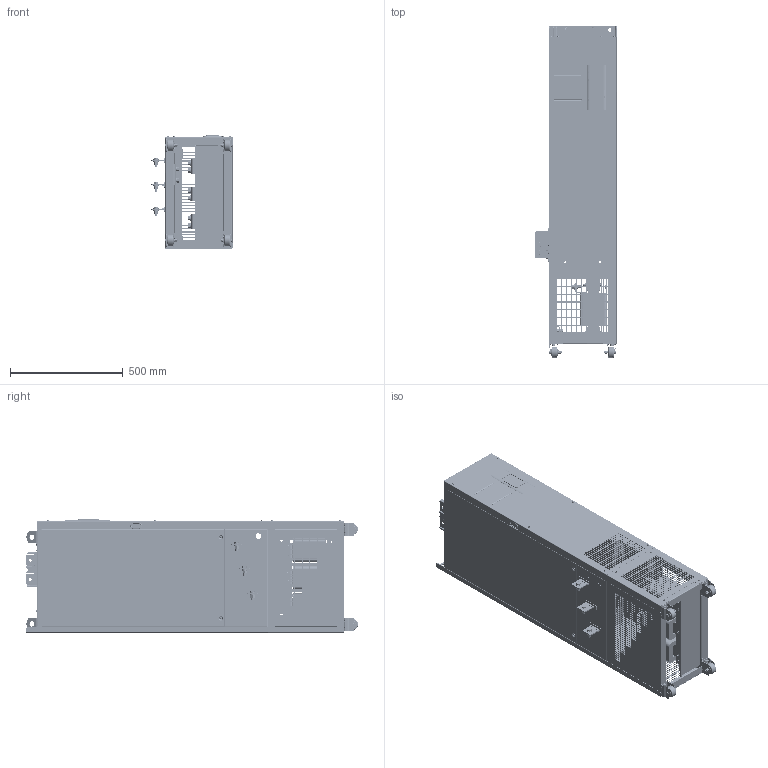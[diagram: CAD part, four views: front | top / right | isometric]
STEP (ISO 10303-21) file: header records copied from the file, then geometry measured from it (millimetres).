
FILE_DESCRIPTION((''),'2;1');
FILE_NAME('000-MVT224ZG-L-520_ASM','2021-12-14T',('h2718'),(''),'CREO PARAMETRIC BY PTC INC, 2015290','CREO PARAMETRIC BY PTC INC, 2015290','');
FILE_SCHEMA(('AP203_CONFIGURATION_CONTROLLED_3D_DESIGN_OF_MECHANICAL_PARTS_AND_ASSEMBLIES_MIM_LF { 1 0 10303 403 2 1 2 }'));
Products named in the file (106): 20310552-LJ_AF1_4_1; 20310555-LJ_AF1_3; 20310552-LJ_AF1_4_2; 20310556-LJ_AF1_6; 20310549-LJ_AF1_6_1; 20310549-LJ_AF1_6_2; 20310563-LJ_AF0_4; 20110091-ZP_ASM_7_ASM; 20310565-LJ_2; 20310564-LJ_2; 20130143-ZP_ASM_2_ASM; 20460154-LJ_3; 20460155-LJ_3; HC-TPR-5-10-SL_2; SIT2013AGH5; 20460157-LJ_2; 20190039-ZP_ASM_6_ASM; 20350027-LJ_AF1_3; 20350028-LJ_AF1_3; 20350023-ZP_ASM_5_ASM; LABLE_MD500_ZHENG_3; LABLE_MD500_FU_3; LABLE_MD500_R_1; LABLE_MD500_S_3; LABLE_MD500_T_1; 19040156-ZP_ASM_5_ASM; 20310713-LJ_4; 20480130-LJ_6; 20310714-LJ_5; 20480129-LJ_4; 20110141-ZP_ASM_5_ASM; 20460199-LJ_4; 20460200-LJ_4; 20460197-LJ_4; 20180085-LJ_4; 20310715-LJ_2; HC-NZ-M12-ZC_2; 20460198-LJ_4; 20110135-ZP_ASM_9_ASM; 20350173-LJ_4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
Assembly tree (204 placements, depth 4):
  000-MVT224ZG-L-520_ASM
    20190039-ZP_ASM_6_ASM
      20110091-ZP_ASM_7_ASM
        20310552-LJ_AF1_4_1
        20310555-LJ_AF1_3
        20310552-LJ_AF1_4_2
        20310556-LJ_AF1_6
        20310549-LJ_AF1_6_1
        20310549-LJ_AF1_6_2
        20310563-LJ_AF0_4
      20130143-ZP_ASM_2_ASM  x2
        20310565-LJ_2
        20310564-LJ_2
      20460154-LJ_3
      20460155-LJ_3
      HC-TPR-5-10-SL_2
      SIT2013AGH5
      20460157-LJ_2
    20350023-ZP_ASM_5_ASM
      20350027-LJ_AF1_3
      20350028-LJ_AF1_3
    19040156-ZP_ASM_5_ASM
      LABLE_MD500_ZHENG_3
      LABLE_MD500_FU_3
      LABLE_MD500_R_1
      LABLE_MD500_S_3
      LABLE_MD500_T_1
    20110135-ZP_ASM_9_ASM
      20110141-ZP_ASM_5_ASM
        20310713-LJ_4
        20480130-LJ_6  x2
        20310714-LJ_5
        20480129-LJ_4  x2
      20460199-LJ_4
      20460200-LJ_4
      20460197-LJ_4
      20180085-LJ_4
      20310715-LJ_2
      HC-NZ-M12-ZC_2  x2
      20460198-LJ_4
    20350173-LJ_ASM_3_ASM  x3
      20350173-LJ_4
      HC-S-M4-ZC_2
    QITA-T10L_ASM
      20180084-LJ_2  x4
      19020302_2
      19020412-LJ_2
      21030044_2  x2
      20210022-LJ_2  x3
      20210102-LJ_2
      20210041-LJ_3  x2
      19020408-LJ_2  x2
      21010127_2  x4
      GB9074_13-88_M8X20_GB_2  x8
      GB9074_8-88_M4X16_GB_2  x9
      GB9074_8-88_M4X10_GB_2  x12
      GB9074_13-88_M5X12_GBXNHJ_2  x10
      GB97_1-2002_12_GB_A_2  x14
      GB93-87_12_GB_2  x11
      GB6170-2000_M12_GB1_A_8_2  x3
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Bounding box: 360.53 x 1473 x 502.28 mm (x, y, z)
Volume: 13489205.7 mm3; surface area: 7892991.9 mm2
Topology: 225 solids, 243 shells, 18079 faces, 49069 edges, 31708 vertices
Faces by surface type: plane 11493, cylinder 4349, cone 1233, bspline 545, torus 312, extrusion 70, sphere 67, revolution 10
Entity records: 692706 total; most frequent: CARTESIAN_POINT 160432, ORIENTED_EDGE 80540, DIRECTION 76685, PRESENTATION_STYLE_ASSIGNMENT 43315, STYLED_ITEM 40816, CURVE_STYLE 40689, EDGE_CURVE 40299, VECTOR 29643
